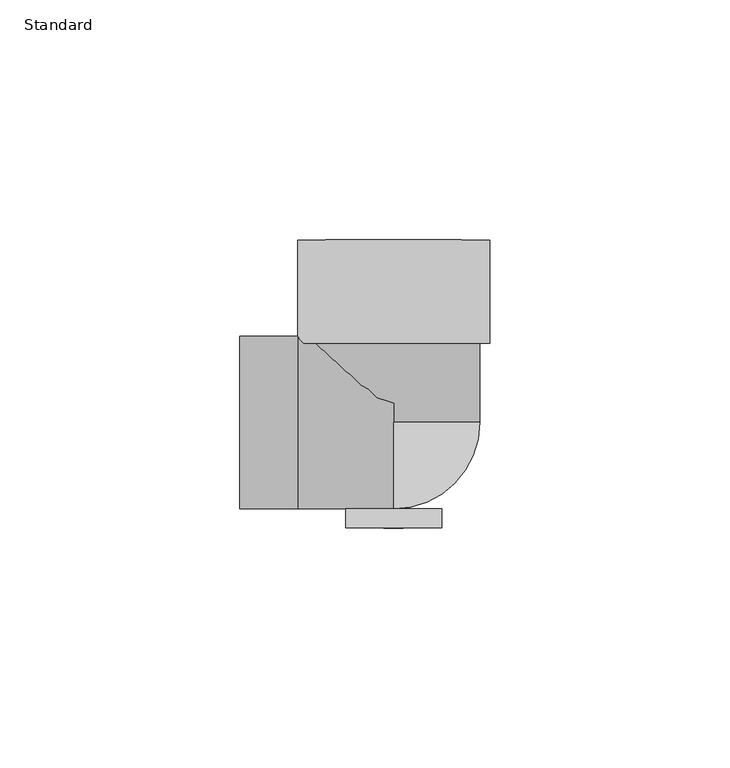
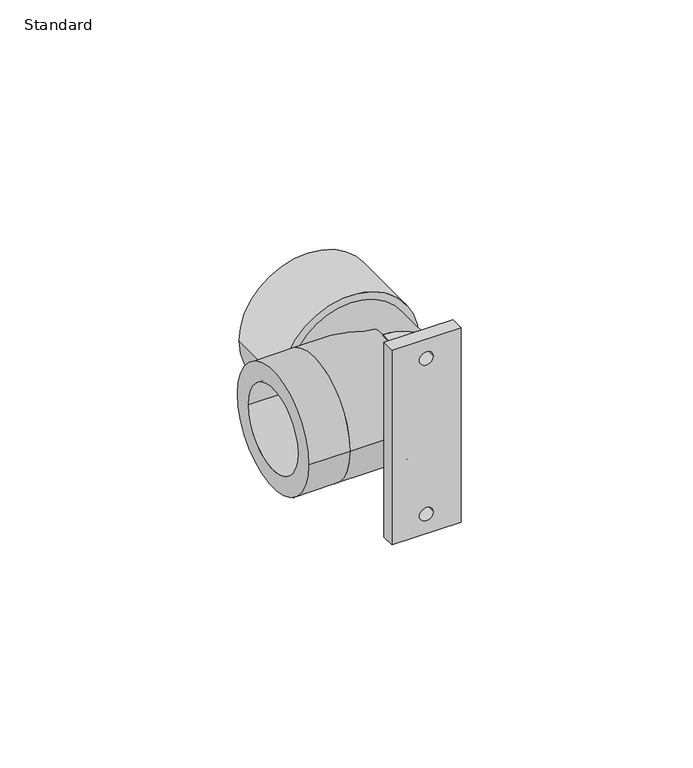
"""IFC4 building model written with IfcOpenShell, lengths in millimetres: pipe fitting geometry, EGB_VASEN_ PPR_Codo placa rosca hembra WXR204 : Standard."""

from ifc_helpers import new_model, si_unit, point, frame, frame_2d, origin, origin_2d, place, context, project, spatial, polyline, circle_curve, ellipse_curve, trimmed, segment, composite_curve, outline, extrude, source, transform, mapped, element, save
from ifc_brep_helpers import plane_surface, revolved_surface, advanced_brep


def standard_9e8ea430(model_context):
    return source(origin(), model_context, "Body", "SolidModel", [
        extrude(outline(polyline([(30.0, 10.0), (30.0, -10.0), (-30.0, -10.0), (-30.0, 10.0), (30.0, 10.0)]), holes=[composite_curve([segment(trimmed(circle_curve(frame_2d((-24.0, 0.0)), 2.0), [point((-24.0, 2.0))], [point((-24.0, -2.0))], True, "CARTESIAN"), True, "CONTINUOUS"), segment(trimmed(circle_curve(frame_2d((-24.0, 0.0)), 2.0), [point((-24.0, -2.0))], [point((-24.0, 2.0))], True, "CARTESIAN"), True, "CONTINUOUS")], self_intersect=False), composite_curve([segment(trimmed(circle_curve(frame_2d((24.0, 0.0)), 2.0), [point((24.0, 2.0))], [point((24.0, -2.0))], True, "CARTESIAN"), True, "CONTINUOUS"), segment(trimmed(circle_curve(frame_2d((24.0, 0.0)), 2.0), [point((24.0, -2.0))], [point((24.0, 2.0))], True, "CARTESIAN"), True, "CONTINUOUS")], self_intersect=False)]), frame((0.0, -22.0, 0.0), z_axis=(0.0, 1.0, 0.0), x_axis=(0.0, 0.0, 1.0)), (0.0, 0.0, 1.0), 4.0),
        extrude(outline(composite_curve([segment(trimmed(circle_curve(origin_2d(), 9.525), [point((0.0, 9.525))], [point((0.0, -9.525))], False, "CARTESIAN"), True, "CONTINUOUS"), segment(trimmed(circle_curve(origin_2d(), 9.525), [point((0.0, -9.525))], [point((0.0, 9.525))], False, "CARTESIAN"), True, "CONTINUOUS")], self_intersect=False)), frame((0.0, 20.0, 0.0), z_axis=(0.0, 1.0, 0.0), x_axis=(0.0, 0.0, 1.0)), (0.0, 0.0, 1.0), 18.0),
        advanced_brep(
        [(0.0, 0.0, -18.0), (0.0, 0.0, 18.0)],
        [
            (0, 1, circle_curve(frame((0.0, 0.0, 0.0), z_axis=(-1.0, 0.0, 0.0), x_axis=(0.0, 1.0, 0.0)), 18.0)),
            (1, 0),
            (1, 0, circle_curve(frame((0.0, 0.0, 0.0), z_axis=(0.0, 1.0, 0.0), x_axis=(-1.0, 0.0, 0.0)), 18.0)),
        ],
        [
            plane_surface(frame((0.0, 0.0, 26.0264129), z_axis=(-1.0, 0.0, 0.0), x_axis=(0.0, -1.0, 0.0))),
            plane_surface(frame((0.0, 0.0, 26.0264129), z_axis=(0.0, 1.0, 0.0), x_axis=(1.0, 0.0, 0.0))),
            revolved_surface(trimmed(ellipse_curve(frame((0.0, 0.0, 0.0), z_axis=(1.0, 0.0, 0.0), x_axis=(0.0, 1.0, 0.0)), 18.0, 18.0), [point((0.0, 0.0, 18.0))], [point((0.0, 0.0, -18.0))], True, "CARTESIAN"), (0.0, 0.0, 26.0264129), (0.0, 0.0, -1.0)),
        ],
        [
            (0, [[1, 2]]),
            (1, [[3, -2]]),
            (2, [[-1, -3]]),
        ],
    ),
        extrude(outline(composite_curve([segment(trimmed(circle_curve(origin_2d(), 20.0), [point((0.0, 20.0))], [point((0.0, -20.0))], False, "CARTESIAN"), True, "CONTINUOUS"), segment(trimmed(circle_curve(origin_2d(), 20.0), [point((0.0, -20.0))], [point((0.0, 20.0))], False, "CARTESIAN"), True, "CONTINUOUS")], self_intersect=False), holes=[composite_curve([segment(trimmed(circle_curve(origin_2d(), 9.525), [point((0.0, 9.525))], [point((0.0, -9.525))], True, "CARTESIAN"), True, "CONTINUOUS"), segment(trimmed(circle_curve(origin_2d(), 9.525), [point((0.0, -9.525))], [point((0.0, 9.525))], True, "CARTESIAN"), True, "CONTINUOUS")], self_intersect=False)]), frame((0.0, 16.5, 0.0), z_axis=(0.0, 1.0, 0.0), x_axis=(0.0, 0.0, 1.0)), (0.0, 0.0, 1.0), 21.5),
        extrude(outline(composite_curve([segment(trimmed(circle_curve(origin_2d(), 18.0), [point((-18.0, 0.0))], [point((18.0, 0.0))], False, "CARTESIAN"), True, "CONTINUOUS"), segment(trimmed(circle_curve(origin_2d(), 18.0), [point((18.0, 0.0))], [point((-18.0, 0.0))], False, "CARTESIAN"), True, "CONTINUOUS")], self_intersect=False), holes=[composite_curve([segment(trimmed(circle_curve(origin_2d(), 12.5), [point((-12.5, 0.0))], [point((12.5, 0.0))], True, "CARTESIAN"), True, "CONTINUOUS"), segment(trimmed(circle_curve(origin_2d(), 12.5), [point((12.5, 0.0))], [point((-12.5, 0.0))], True, "CARTESIAN"), True, "CONTINUOUS")], self_intersect=False)]), frame((-32.0, 0.0, 0.0), z_axis=(1.0, 0.0, 0.0), x_axis=(0.0, 1.0, 0.0)), (0.0, 0.0, 1.0), 12.0),
        extrude(outline(composite_curve([segment(trimmed(circle_curve(origin_2d(), 18.0), [point((-18.0, 0.0))], [point((18.0, 0.0))], False, "CARTESIAN"), True, "CONTINUOUS"), segment(trimmed(circle_curve(origin_2d(), 18.0), [point((18.0, 0.0))], [point((-18.0, 0.0))], False, "CARTESIAN"), True, "CONTINUOUS")], self_intersect=False)), frame((-20.0, 0.0, 0.0), z_axis=(1.0, 0.0, 0.0), x_axis=(0.0, 1.0, 0.0)), (0.0, 0.0, 1.0), 20.0),
        extrude(outline(composite_curve([segment(trimmed(circle_curve(origin_2d(), 18.0), [point((0.0, -18.0))], [point((0.0, 18.0))], False, "CARTESIAN"), True, "CONTINUOUS"), segment(trimmed(circle_curve(origin_2d(), 18.0), [point((0.0, 18.0))], [point((0.0, -18.0))], False, "CARTESIAN"), True, "CONTINUOUS")], self_intersect=False)), frame((0.0, 0.0, 0.0), z_axis=(0.0, 1.0, 0.0), x_axis=(0.0, 0.0, 1.0)), (0.0, 0.0, 1.0), 16.5),
    ])


if __name__ == "__main__":
    model = new_model("IFC4")
    model_context = context("Model", 3, world=origin())
    ifc_project = project(units=[si_unit("LENGTHUNIT", "METRE", prefix="MILLI")], contexts=[model_context])
    site = spatial("IfcSite", under=ifc_project)
    building = spatial("IfcBuilding", under=site)
    placement = place(None, origin())
    standard_shape = standard_9e8ea430(model_context)
    element("IfcPipeFitting", 1, ObjectType="EGB_VASEN_ PPR_Codo placa rosca hembra WXR204 : Standard", at=placement, inside=building, context=model_context, shape_type="MappedRepresentation", body=[
        mapped(standard_shape, transform((0.0, 0.0, 0.0), x_axis=(1.0, 0.0, 0.0), y_axis=(0.0, 1.0, 0.0), z_axis=(0.0, 0.0, 1.0))),
    ])
    save(model, "model.ifc")
